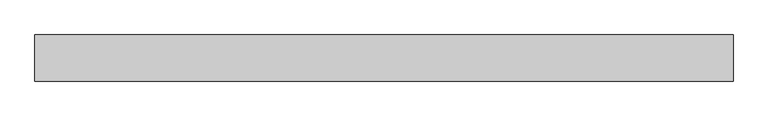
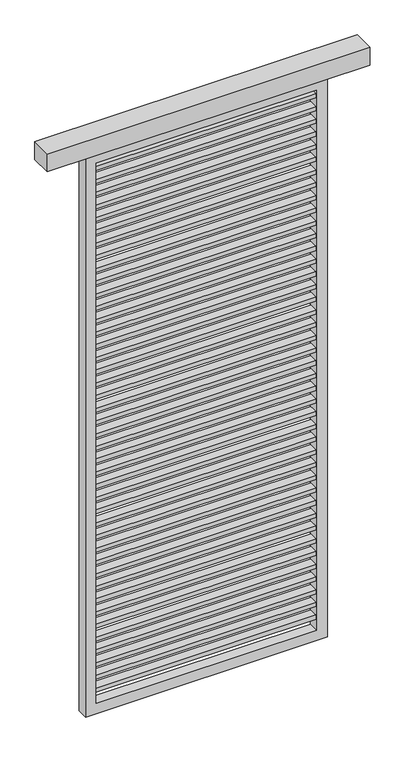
"""IFC4 building model written with IfcOpenShell, lengths in millimetres: proxy geometry, Renson_Amani_Loggia_Plano_Fix : Renson_Amani_Loggia_Plano_Fix."""

from ifc_helpers import new_model, si_unit, frame, origin, place, context, project, spatial, polyline, outline, extrude, source, transform, mapped, element, save


def generic_models_600909ca(model_context):
    return source(origin(), model_context, "Body", "SweptSolid", [
        extrude(outline(polyline([(600.0, 46.0), (600.0, -34.0), (-600.0, -34.0), (-600.0, 46.0), (600.0, 46.0)])), frame((0.0, 0.0, 2250.0), z_axis=(0.0, 0.0, 1.0), x_axis=(1.0, 0.0, 0.0)), (0.0, 0.0, 1.0), 70.0),
        extrude(outline(polyline([(410.0, 16.5), (410.0, -16.5), (-410.0, -16.5), (-410.0, 16.5), (410.0, 16.5)])), frame((0.0, 0.0, 2177.0), z_axis=(0.0, 0.0, 1.0), x_axis=(1.0, 0.0, 0.0)), (0.0, 0.0, 1.0), 16.0),
        extrude(outline(polyline([(410.0, 16.5), (410.0, -16.5), (-410.0, -16.5), (-410.0, 16.5), (410.0, 16.5)])), frame((0.0, 0.0, 2127.0), z_axis=(0.0, 0.0, 1.0), x_axis=(1.0, 0.0, 0.0)), (0.0, 0.0, 1.0), 16.0),
        extrude(outline(polyline([(410.0, 16.5), (410.0, -16.5), (-410.0, -16.5), (-410.0, 16.5), (410.0, 16.5)])), frame((0.0, 0.0, 2077.0), z_axis=(0.0, 0.0, 1.0), x_axis=(1.0, 0.0, 0.0)), (0.0, 0.0, 1.0), 16.0),
        extrude(outline(polyline([(410.0, 16.5), (410.0, -16.5), (-410.0, -16.5), (-410.0, 16.5), (410.0, 16.5)])), frame((0.0, 0.0, 2027.0), z_axis=(0.0, 0.0, 1.0), x_axis=(1.0, 0.0, 0.0)), (0.0, 0.0, 1.0), 16.0),
        extrude(outline(polyline([(410.0, 16.5), (410.0, -16.5), (-410.0, -16.5), (-410.0, 16.5), (410.0, 16.5)])), frame((0.0, 0.0, 1977.0), z_axis=(0.0, 0.0, 1.0), x_axis=(1.0, 0.0, 0.0)), (0.0, 0.0, 1.0), 16.0),
        extrude(outline(polyline([(410.0, 16.5), (410.0, -16.5), (-410.0, -16.5), (-410.0, 16.5), (410.0, 16.5)])), frame((0.0, 0.0, 1927.0), z_axis=(0.0, 0.0, 1.0), x_axis=(1.0, 0.0, 0.0)), (0.0, 0.0, 1.0), 16.0),
        extrude(outline(polyline([(410.0, 16.5), (410.0, -16.5), (-410.0, -16.5), (-410.0, 16.5), (410.0, 16.5)])), frame((0.0, 0.0, 1877.0), z_axis=(0.0, 0.0, 1.0), x_axis=(1.0, 0.0, 0.0)), (0.0, 0.0, 1.0), 16.0),
        extrude(outline(polyline([(410.0, 16.5), (410.0, -16.5), (-410.0, -16.5), (-410.0, 16.5), (410.0, 16.5)])), frame((0.0, 0.0, 1827.0), z_axis=(0.0, 0.0, 1.0), x_axis=(1.0, 0.0, 0.0)), (0.0, 0.0, 1.0), 16.0),
        extrude(outline(polyline([(410.0, 16.5), (410.0, -16.5), (-410.0, -16.5), (-410.0, 16.5), (410.0, 16.5)])), frame((0.0, 0.0, 1777.0), z_axis=(0.0, 0.0, 1.0), x_axis=(1.0, 0.0, 0.0)), (0.0, 0.0, 1.0), 16.0),
        extrude(outline(polyline([(410.0, 16.5), (410.0, -16.5), (-410.0, -16.5), (-410.0, 16.5), (410.0, 16.5)])), frame((0.0, 0.0, 1727.0), z_axis=(0.0, 0.0, 1.0), x_axis=(1.0, 0.0, 0.0)), (0.0, 0.0, 1.0), 16.0),
        extrude(outline(polyline([(410.0, 16.5), (410.0, -16.5), (-410.0, -16.5), (-410.0, 16.5), (410.0, 16.5)])), frame((0.0, 0.0, 1677.0), z_axis=(0.0, 0.0, 1.0), x_axis=(1.0, 0.0, 0.0)), (0.0, 0.0, 1.0), 16.0),
        extrude(outline(polyline([(410.0, 16.5), (410.0, -16.5), (-410.0, -16.5), (-410.0, 16.5), (410.0, 16.5)])), frame((0.0, 0.0, 1627.0), z_axis=(0.0, 0.0, 1.0), x_axis=(1.0, 0.0, 0.0)), (0.0, 0.0, 1.0), 16.0),
        extrude(outline(polyline([(410.0, 16.5), (410.0, -16.5), (-410.0, -16.5), (-410.0, 16.5), (410.0, 16.5)])), frame((0.0, 0.0, 1577.0), z_axis=(0.0, 0.0, 1.0), x_axis=(1.0, 0.0, 0.0)), (0.0, 0.0, 1.0), 16.0),
        extrude(outline(polyline([(410.0, 16.5), (410.0, -16.5), (-410.0, -16.5), (-410.0, 16.5), (410.0, 16.5)])), frame((0.0, 0.0, 1527.0), z_axis=(0.0, 0.0, 1.0), x_axis=(1.0, 0.0, 0.0)), (0.0, 0.0, 1.0), 16.0),
        extrude(outline(polyline([(410.0, 16.5), (410.0, -16.5), (-410.0, -16.5), (-410.0, 16.5), (410.0, 16.5)])), frame((0.0, 0.0, 1477.0), z_axis=(0.0, 0.0, 1.0), x_axis=(1.0, 0.0, 0.0)), (0.0, 0.0, 1.0), 16.0),
        extrude(outline(polyline([(410.0, 16.5), (410.0, -16.5), (-410.0, -16.5), (-410.0, 16.5), (410.0, 16.5)])), frame((0.0, 0.0, 1427.0), z_axis=(0.0, 0.0, 1.0), x_axis=(1.0, 0.0, 0.0)), (0.0, 0.0, 1.0), 16.0),
        extrude(outline(polyline([(410.0, 16.5), (410.0, -16.5), (-410.0, -16.5), (-410.0, 16.5), (410.0, 16.5)])), frame((0.0, 0.0, 1377.0), z_axis=(0.0, 0.0, 1.0), x_axis=(1.0, 0.0, 0.0)), (0.0, 0.0, 1.0), 16.0),
        extrude(outline(polyline([(410.0, 16.5), (410.0, -16.5), (-410.0, -16.5), (-410.0, 16.5), (410.0, 16.5)])), frame((0.0, 0.0, 1327.0), z_axis=(0.0, 0.0, 1.0), x_axis=(1.0, 0.0, 0.0)), (0.0, 0.0, 1.0), 16.0),
        extrude(outline(polyline([(410.0, 16.5), (410.0, -16.5), (-410.0, -16.5), (-410.0, 16.5), (410.0, 16.5)])), frame((0.0, 0.0, 1277.0), z_axis=(0.0, 0.0, 1.0), x_axis=(1.0, 0.0, 0.0)), (0.0, 0.0, 1.0), 16.0),
        extrude(outline(polyline([(410.0, 16.5), (410.0, -16.5), (-410.0, -16.5), (-410.0, 16.5), (410.0, 16.5)])), frame((0.0, 0.0, 1227.0), z_axis=(0.0, 0.0, 1.0), x_axis=(1.0, 0.0, 0.0)), (0.0, 0.0, 1.0), 16.0),
        extrude(outline(polyline([(410.0, 16.5), (410.0, -16.5), (-410.0, -16.5), (-410.0, 16.5), (410.0, 16.5)])), frame((0.0, 0.0, 1177.0), z_axis=(0.0, 0.0, 1.0), x_axis=(1.0, 0.0, 0.0)), (0.0, 0.0, 1.0), 16.0),
        extrude(outline(polyline([(410.0, 16.5), (410.0, -16.5), (-410.0, -16.5), (-410.0, 16.5), (410.0, 16.5)])), frame((0.0, 0.0, 1127.0), z_axis=(0.0, 0.0, 1.0), x_axis=(1.0, 0.0, 0.0)), (0.0, 0.0, 1.0), 16.0),
        extrude(outline(polyline([(410.0, 16.5), (410.0, -16.5), (-410.0, -16.5), (-410.0, 16.5), (410.0, 16.5)])), frame((0.0, 0.0, 1077.0), z_axis=(0.0, 0.0, 1.0), x_axis=(1.0, 0.0, 0.0)), (0.0, 0.0, 1.0), 16.0),
        extrude(outline(polyline([(410.0, 16.5), (410.0, -16.5), (-410.0, -16.5), (-410.0, 16.5), (410.0, 16.5)])), frame((0.0, 0.0, 1027.0), z_axis=(0.0, 0.0, 1.0), x_axis=(1.0, 0.0, 0.0)), (0.0, 0.0, 1.0), 16.0),
        extrude(outline(polyline([(410.0, 16.5), (410.0, -16.5), (-410.0, -16.5), (-410.0, 16.5), (410.0, 16.5)])), frame((0.0, 0.0, 977.0), z_axis=(0.0, 0.0, 1.0), x_axis=(1.0, 0.0, 0.0)), (0.0, 0.0, 1.0), 16.0),
        extrude(outline(polyline([(410.0, 16.5), (410.0, -16.5), (-410.0, -16.5), (-410.0, 16.5), (410.0, 16.5)])), frame((0.0, 0.0, 927.0), z_axis=(0.0, 0.0, 1.0), x_axis=(1.0, 0.0, 0.0)), (0.0, 0.0, 1.0), 16.0),
        extrude(outline(polyline([(410.0, 16.5), (410.0, -16.5), (-410.0, -16.5), (-410.0, 16.5), (410.0, 16.5)])), frame((0.0, 0.0, 877.0), z_axis=(0.0, 0.0, 1.0), x_axis=(1.0, 0.0, 0.0)), (0.0, 0.0, 1.0), 16.0),
        extrude(outline(polyline([(410.0, 16.5), (410.0, -16.5), (-410.0, -16.5), (-410.0, 16.5), (410.0, 16.5)])), frame((0.0, 0.0, 827.0), z_axis=(0.0, 0.0, 1.0), x_axis=(1.0, 0.0, 0.0)), (0.0, 0.0, 1.0), 16.0),
        extrude(outline(polyline([(410.0, 16.5), (410.0, -16.5), (-410.0, -16.5), (-410.0, 16.5), (410.0, 16.5)])), frame((0.0, 0.0, 777.0), z_axis=(0.0, 0.0, 1.0), x_axis=(1.0, 0.0, 0.0)), (0.0, 0.0, 1.0), 16.0),
        extrude(outline(polyline([(410.0, 16.5), (410.0, -16.5), (-410.0, -16.5), (-410.0, 16.5), (410.0, 16.5)])), frame((0.0, 0.0, 727.0), z_axis=(0.0, 0.0, 1.0), x_axis=(1.0, 0.0, 0.0)), (0.0, 0.0, 1.0), 16.0),
        extrude(outline(polyline([(410.0, 16.5), (410.0, -16.5), (-410.0, -16.5), (-410.0, 16.5), (410.0, 16.5)])), frame((0.0, 0.0, 677.0), z_axis=(0.0, 0.0, 1.0), x_axis=(1.0, 0.0, 0.0)), (0.0, 0.0, 1.0), 16.0),
        extrude(outline(polyline([(410.0, 16.5), (410.0, -16.5), (-410.0, -16.5), (-410.0, 16.5), (410.0, 16.5)])), frame((0.0, 0.0, 627.0), z_axis=(0.0, 0.0, 1.0), x_axis=(1.0, 0.0, 0.0)), (0.0, 0.0, 1.0), 16.0),
        extrude(outline(polyline([(410.0, 16.5), (410.0, -16.5), (-410.0, -16.5), (-410.0, 16.5), (410.0, 16.5)])), frame((0.0, 0.0, 577.0), z_axis=(0.0, 0.0, 1.0), x_axis=(1.0, 0.0, 0.0)), (0.0, 0.0, 1.0), 16.0),
        extrude(outline(polyline([(410.0, 16.5), (410.0, -16.5), (-410.0, -16.5), (-410.0, 16.5), (410.0, 16.5)])), frame((0.0, 0.0, 527.0), z_axis=(0.0, 0.0, 1.0), x_axis=(1.0, 0.0, 0.0)), (0.0, 0.0, 1.0), 16.0),
        extrude(outline(polyline([(410.0, 16.5), (410.0, -16.5), (-410.0, -16.5), (-410.0, 16.5), (410.0, 16.5)])), frame((0.0, 0.0, 477.0), z_axis=(0.0, 0.0, 1.0), x_axis=(1.0, 0.0, 0.0)), (0.0, 0.0, 1.0), 16.0),
        extrude(outline(polyline([(410.0, 16.5), (410.0, -16.5), (-410.0, -16.5), (-410.0, 16.5), (410.0, 16.5)])), frame((0.0, 0.0, 427.0), z_axis=(0.0, 0.0, 1.0), x_axis=(1.0, 0.0, 0.0)), (0.0, 0.0, 1.0), 16.0),
        extrude(outline(polyline([(410.0, 16.5), (410.0, -16.5), (-410.0, -16.5), (-410.0, 16.5), (410.0, 16.5)])), frame((0.0, 0.0, 377.0), z_axis=(0.0, 0.0, 1.0), x_axis=(1.0, 0.0, 0.0)), (0.0, 0.0, 1.0), 16.0),
        extrude(outline(polyline([(410.0, 16.5), (410.0, -16.5), (-410.0, -16.5), (-410.0, 16.5), (410.0, 16.5)])), frame((0.0, 0.0, 327.0), z_axis=(0.0, 0.0, 1.0), x_axis=(1.0, 0.0, 0.0)), (0.0, 0.0, 1.0), 16.0),
        extrude(outline(polyline([(410.0, 16.5), (410.0, -16.5), (-410.0, -16.5), (-410.0, 16.5), (410.0, 16.5)])), frame((0.0, 0.0, 277.0), z_axis=(0.0, 0.0, 1.0), x_axis=(1.0, 0.0, 0.0)), (0.0, 0.0, 1.0), 16.0),
        extrude(outline(polyline([(410.0, 16.5), (410.0, -16.5), (-410.0, -16.5), (-410.0, 16.5), (410.0, 16.5)])), frame((0.0, 0.0, 227.0), z_axis=(0.0, 0.0, 1.0), x_axis=(1.0, 0.0, 0.0)), (0.0, 0.0, 1.0), 16.0),
        extrude(outline(polyline([(410.0, 16.5), (410.0, -16.5), (-410.0, -16.5), (-410.0, 16.5), (410.0, 16.5)])), frame((0.0, 0.0, 177.0), z_axis=(0.0, 0.0, 1.0), x_axis=(1.0, 0.0, 0.0)), (0.0, 0.0, 1.0), 16.0),
        extrude(outline(polyline([(410.0, 16.5), (410.0, -16.5), (-410.0, -16.5), (-410.0, 16.5), (410.0, 16.5)])), frame((0.0, 0.0, 127.0), z_axis=(0.0, 0.0, 1.0), x_axis=(1.0, 0.0, 0.0)), (0.0, 0.0, 1.0), 16.0),
        extrude(outline(polyline([(2250.0, -450.0), (45.0, -450.0), (45.0, 450.0), (2250.0, 450.0), (2250.0, -450.0)]), holes=[polyline([(2210.0, 410.0), (85.0, 410.0), (85.0, -410.0), (2210.0, -410.0), (2210.0, 410.0)])]), frame((0.0, -20.0, 0.0), z_axis=(0.0, 1.0, 0.0), x_axis=(0.0, 0.0, 1.0)), (0.0, 0.0, 1.0), 40.0),
    ])


if __name__ == "__main__":
    model = new_model("IFC4")
    model_context = context("Model", 3, world=origin())
    ifc_project = project(units=[si_unit("LENGTHUNIT", "METRE", prefix="MILLI")], contexts=[model_context])
    site = spatial("IfcSite", under=ifc_project)
    building = spatial("IfcBuilding", under=site)
    placement = place(None, origin())
    generic_models_shape = generic_models_600909ca(model_context)
    element("IfcBuildingElementProxy", 1, Name="Renson_Amani_Loggia_Plano_Fix : Renson_Amani_Loggia_Plano_Fix", ObjectType="Renson_Amani_Loggia_Plano_Fix : Renson_Amani_Loggia_Plano_Fix", at=placement, inside=building, context=model_context, shape_type="MappedRepresentation", body=[
        mapped(generic_models_shape, transform((0.0, 0.0, 0.0), x_axis=(1.0, 0.0, 0.0), y_axis=(0.0, 1.0, 0.0), z_axis=(0.0, 0.0, 1.0))),
    ])
    save(model, "model.ifc")
